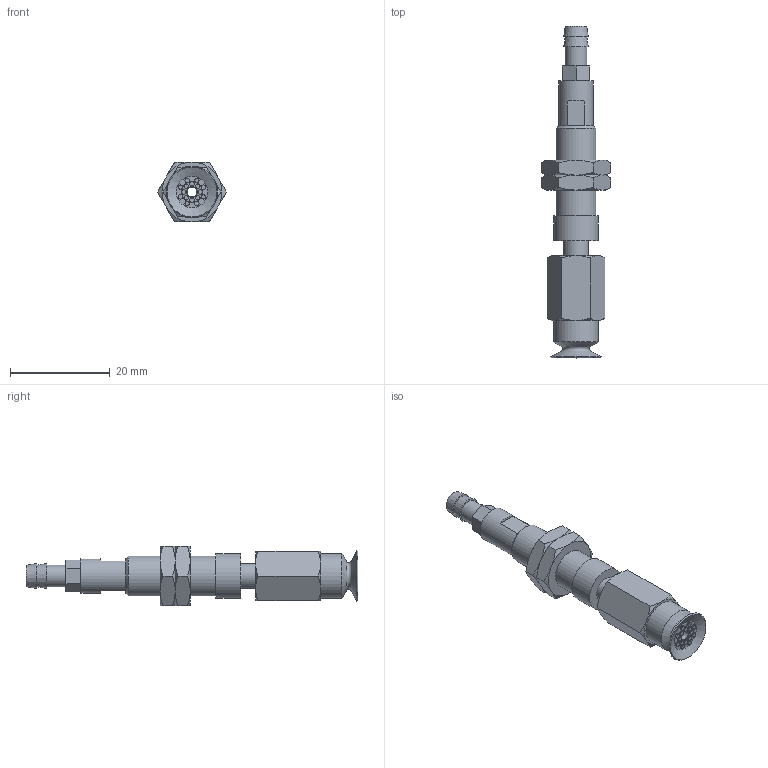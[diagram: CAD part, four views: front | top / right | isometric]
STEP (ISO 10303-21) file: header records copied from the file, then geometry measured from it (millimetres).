
FILE_DESCRIPTION(('STEP AP203'),'1');
FILE_NAME('-T.stp','2025-08-26T08:30:11',(' '),(' '),'Spatial InterOp 3D',' ',' ');
FILE_SCHEMA(('CONFIG_CONTROL_DESIGN'));
Length unit declared in the file: millimetre
Products named in the file (7): BNABPATS-10A-3-※-T; ADAPTER; NAPATS-10A-3--M; NAPATS-10A-3--F; Nut-10A-S; BPAG-10A-※_3D; T
Assembly tree (7 placements, depth 2):
  BNABPATS-10A-3-※-T
    ADAPTER
    NAPATS-10A-3--M
    NAPATS-10A-3--F
    Nut-10A-S  x2
    BPAG-10A-※_3D
    T
Bounding box: 13.86 x 66.5 x 12 mm (x, y, z)
Volume: 3555.2 mm3; surface area: 4367.4 mm2
Topology: 7 solids, 7 shells, 163 faces, 317 edges, 195 vertices
Faces by surface type: plane 69, cone 49, cylinder 35, torus 10
Full cylindrical faces by diameter (mm): 0.9 x16, 2 x3, 3 x1, 4 x2, 4.134 x1, 4.3 x1, 5 x3, 6 x2, 7 x1, 7.188 x2, 8 x1, 9 x2
Entity records: 3766 total; most frequent: CARTESIAN_POINT 802, DIRECTION 572, ORIENTED_EDGE 412, AXIS2_PLACEMENT_3D 266, EDGE_LOOP 234, EDGE_CURVE 206, FACE_OUTER_BOUND 184, VERTEX_POINT 160
